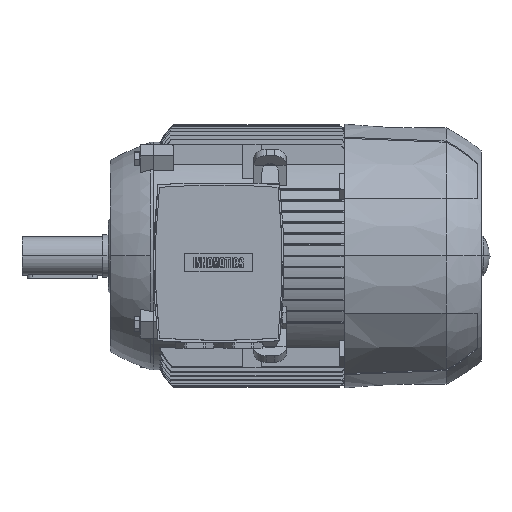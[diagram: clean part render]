
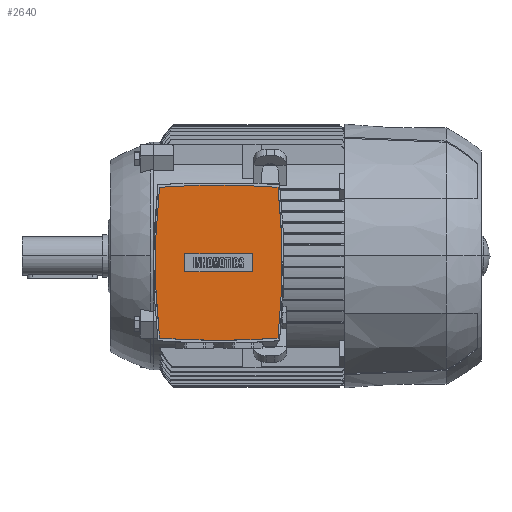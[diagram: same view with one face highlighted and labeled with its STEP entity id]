
A CAD part, top view. The second image highlights one B-rep face of the part: STEP entity #2640.
In plain terms, the highlighted planar face has unit normal (0, 0, 1).
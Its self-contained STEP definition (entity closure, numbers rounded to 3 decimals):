
#2640=ADVANCED_FACE('',(#5531,#5532),#5533,.T.);
#5531=FACE_BOUND('',#8668,.T.);
#5532=FACE_OUTER_BOUND('',#8669,.T.);
#5533=PLANE('',#8670);
#8668=EDGE_LOOP('',(#16857,#16858,#16859,#16860));
#8669=EDGE_LOOP('',(#16861,#16862,#16863,#16864,#16865,#16866));
#8670=AXIS2_PLACEMENT_3D('',#16867,#16868,#16869);
#16857=ORIENTED_EDGE('',*,*,#22331,.T.);
#16858=ORIENTED_EDGE('',*,*,#22335,.T.);
#16859=ORIENTED_EDGE('',*,*,#22338,.T.);
#16860=ORIENTED_EDGE('',*,*,#22340,.T.);
#16861=ORIENTED_EDGE('',*,*,#22405,.T.);
#16862=ORIENTED_EDGE('',*,*,#22396,.T.);
#16863=ORIENTED_EDGE('',*,*,#19548,.T.);
#16864=ORIENTED_EDGE('',*,*,#22394,.T.);
#16865=ORIENTED_EDGE('',*,*,#19533,.T.);
#16866=ORIENTED_EDGE('',*,*,#22403,.T.);
#16867=CARTESIAN_POINT('',(65.0,-7.0,202.0));
#16868=DIRECTION('',(0.0,0.0,1.0));
#16869=DIRECTION('',(0.0,-1.0,0.0));
#19533=EDGE_CURVE('',#23624,#23621,#23625,.T.);
#19548=EDGE_CURVE('',#23646,#23650,#23652,.T.);
#22331=EDGE_CURVE('',#27835,#27833,#27836,.T.);
#22335=EDGE_CURVE('',#27833,#27839,#27841,.T.);
#22338=EDGE_CURVE('',#27839,#27843,#27845,.T.);
#22340=EDGE_CURVE('',#27843,#27835,#27847,.T.);
#22394=EDGE_CURVE('',#23650,#23624,#27924,.T.);
#22396=EDGE_CURVE('',#27926,#23646,#27927,.T.);
#22403=EDGE_CURVE('',#23621,#27934,#27936,.T.);
#22405=EDGE_CURVE('',#27934,#27926,#27938,.T.);
#23621=VERTEX_POINT('',#30321);
#23624=VERTEX_POINT('',#30325);
#23625=CIRCLE('',#30326,803.4);
#23646=VERTEX_POINT('',#30373);
#23650=VERTEX_POINT('',#30378);
#23652=CIRCLE('',#30381,803.4);
#27833=VERTEX_POINT('',#42464);
#27835=VERTEX_POINT('',#42467);
#27836=LINE('',#42468,#42469);
#27839=VERTEX_POINT('',#42473);
#27841=LINE('',#42476,#42477);
#27843=VERTEX_POINT('',#42479);
#27845=LINE('',#42482,#42483);
#27847=LINE('',#42485,#42486);
#27924=CIRCLE('',#42601,682.0);
#27926=VERTEX_POINT('',#42603);
#27927=CIRCLE('',#42604,803.4);
#27934=VERTEX_POINT('',#42613);
#27936=CIRCLE('',#42616,803.4);
#27938=CIRCLE('',#42618,682.0);
#30321=CARTESIAN_POINT('',(65.,70.0,202.0));
#30325=CARTESIAN_POINT('',(123.881,67.839,202.0));
#30326=AXIS2_PLACEMENT_3D('',#45154,#45155,#45156);
#30373=CARTESIAN_POINT('',(65.,-84.0,202.0));
#30378=CARTESIAN_POINT('',(123.881,-81.839,202.0));
#30381=AXIS2_PLACEMENT_3D('',#45178,#45179,#45180);
#42464=CARTESIAN_POINT('',(31.25,-16.05,202.0));
#42467=CARTESIAN_POINT('',(98.75,-16.05,202.0));
#42468=CARTESIAN_POINT('',(65.0,-16.05,202.0));
#42469=VECTOR('',#47693,1.0);
#42473=CARTESIAN_POINT('',(31.25,2.05,202.0));
#42476=CARTESIAN_POINT('',(31.25,-7.0,202.0));
#42477=VECTOR('',#47696,1.0);
#42479=CARTESIAN_POINT('',(98.75,2.05,202.0));
#42482=CARTESIAN_POINT('',(65.0,2.05,202.0));
#42483=VECTOR('',#47698,1.0);
#42485=CARTESIAN_POINT('',(98.75,-7.0,202.0));
#42486=VECTOR('',#47699,1.0);
#42601=AXIS2_PLACEMENT_3D('',#47777,#47778,#47779);
#42603=CARTESIAN_POINT('',(6.119,-81.839,202.0));
#42604=AXIS2_PLACEMENT_3D('',#47780,#47781,#47782);
#42613=CARTESIAN_POINT('',(6.119,67.839,202.0));
#42616=AXIS2_PLACEMENT_3D('',#47789,#47790,#47791);
#42618=AXIS2_PLACEMENT_3D('',#47792,#47793,#47794);
#45154=CARTESIAN_POINT('',(65.0,-733.4,202.0));
#45155=DIRECTION('',(0.0,-0.0,1.0));
#45156=DIRECTION('',(0.0,1.0,0.0));
#45178=CARTESIAN_POINT('',(65.0,719.4,202.0));
#45179=DIRECTION('',(0.0,-0.0,1.0));
#45180=DIRECTION('',(0.0,1.0,0.0));
#47693=DIRECTION('',(-1.0,0.0,0.0));
#47696=DIRECTION('',(0.0,1.0,0.0));
#47698=DIRECTION('',(1.0,0.0,-0.0));
#47699=DIRECTION('',(0.0,-1.0,0.0));
#47777=CARTESIAN_POINT('',(-554.0,-7.0,202.0));
#47778=DIRECTION('',(0.0,-0.0,1.0));
#47779=DIRECTION('',(0.0,1.0,0.0));
#47780=CARTESIAN_POINT('',(65.0,719.4,202.0));
#47781=DIRECTION('',(0.0,-0.0,1.0));
#47782=DIRECTION('',(0.0,1.0,0.0));
#47789=CARTESIAN_POINT('',(65.0,-733.4,202.0));
#47790=DIRECTION('',(0.0,-0.0,1.0));
#47791=DIRECTION('',(0.0,1.0,0.0));
#47792=CARTESIAN_POINT('',(684.0,-7.0,202.0));
#47793=DIRECTION('',(0.0,-0.0,1.0));
#47794=DIRECTION('',(0.0,1.0,0.0));
